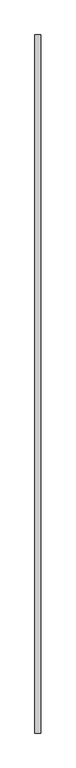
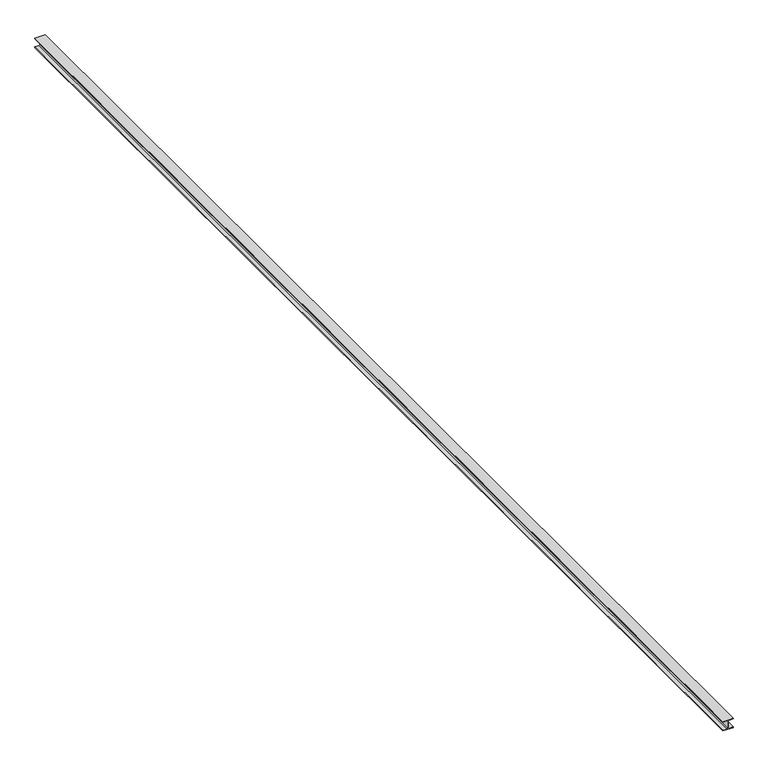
"""IFC4 building model written with IfcOpenShell, lengths in millimetres: beam geometry, Membrure Haute 55408 : Membrure Haute 55408."""

from ifc_helpers import new_model, si_unit, frame, origin, place, context, project, spatial, polyline, outline, extrude, source, transform, mapped, element, save


def beam_28902ba3(model_context):
    return source(origin(), model_context, "Body", "SweptSolid", [
        extrude(outline(polyline([(8425.5, -180.0000001), (8417.0, -180.0000001), (8417.0, -40.0000001), (8425.5, -40.0000001), (8425.5, -95.2500001), (8437.5, -107.2500001), (8529.5, -107.2500001), (8541.5, -95.2500001), (8541.5, -40.0000001), (8550.0, -40.0000001), (8550.0, -180.0000001), (8541.5, -180.0000001), (8541.5, -124.7500001), (8529.5, -112.7500001), (8437.5, -112.7500001), (8425.5, -124.7500001), (8425.5, -180.0000001)])), frame((0.0, -29066.5, 0.0), z_axis=(0.0, 1.0, 0.0), x_axis=(0.0, 0.0, 1.0)), (0.0, 0.0, 1.0), 16181.5),
    ])


if __name__ == "__main__":
    model = new_model("IFC4")
    model_context = context("Model", 3, world=origin())
    ifc_project = project(units=[si_unit("LENGTHUNIT", "METRE", prefix="MILLI")], contexts=[model_context])
    site = spatial("IfcSite", under=ifc_project)
    building = spatial("IfcBuilding", under=site)
    placement = place(None, origin())
    beam_shape = beam_28902ba3(model_context)
    element("IfcBeam", 1, ObjectType="Membrure Haute 55408 : Membrure Haute 55408", at=placement, inside=building, context=model_context, shape_type="MappedRepresentation", body=[
        mapped(beam_shape, transform((0.0, 0.0, 0.0), x_axis=(1.0, 0.0, 0.0), y_axis=(0.0, 1.0, 0.0), z_axis=(0.0, 0.0, 1.0))),
    ])
    save(model, "model.ifc")
